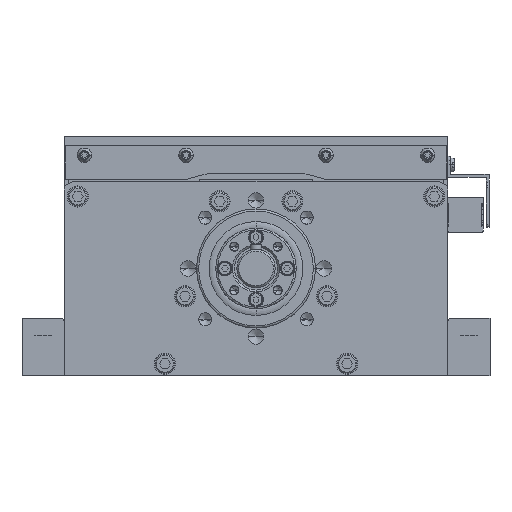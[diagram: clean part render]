
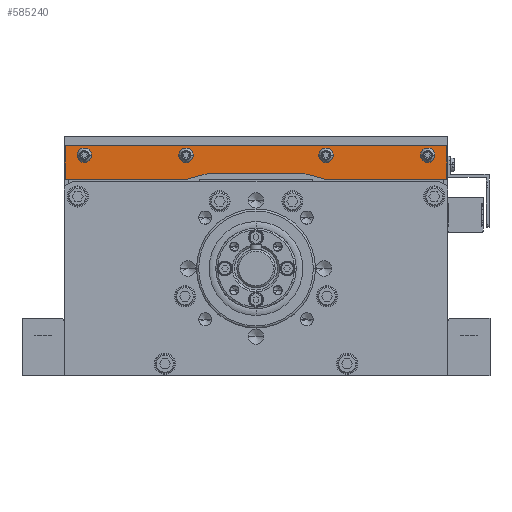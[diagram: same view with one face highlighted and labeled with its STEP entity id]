
A CAD part, front view. The second image highlights one B-rep face of the part: STEP entity #585240.
In plain terms, the highlighted planar face has unit normal (0, -1, 0).
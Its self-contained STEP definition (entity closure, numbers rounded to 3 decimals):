
#579800=CARTESIAN_POINT('',(121.25,-4.,1.5));
#579810=VERTEX_POINT('',#579800);
#579890=CARTESIAN_POINT('',(125.75,-4.,1.5));
#579900=VERTEX_POINT('',#579890);
#579930=CARTESIAN_POINT('',(123.5,-4.,1.5));
#579940=DIRECTION('',(0.,-1.,0.));
#579950=DIRECTION('',(1.,0.,0.));
#579960=AXIS2_PLACEMENT_3D('',#579930,#579940,#579950);
#579970=CIRCLE('',#579960,2.25);
#579980=EDGE_CURVE('',#579810,#579900,#579970,.T.);
#580120=CARTESIAN_POINT('',(-12.5,-4.,6.5));
#580130=VERTEX_POINT('',#580120);
#580160=CARTESIAN_POINT('',(-12.5,-4.,0.))
;
#580170=DIRECTION('',(0.,0.,-1.));
#580180=VECTOR('',#580170,1.);
#580190=LINE('',#580160,#580180);
#580200=CARTESIAN_POINT('',(-12.5,-4.,-11.));
#580210=VERTEX_POINT('',#580200);
#580220=EDGE_CURVE('',#580130,#580210,#580190,.T.);
#580770=CARTESIAN_POINT('',(0.,-4.,-24.616));
#580780=DIRECTION('',(-0.966,0.,
-0.259));
#580790=VECTOR('',#580780,1.);
#580800=LINE('',#580770,#580790);
#580810=CARTESIAN_POINT('',(62.013,-4.,-8.));
#580820=VERTEX_POINT('',#580810);
#580830=CARTESIAN_POINT('',(50.816,-4.,-11.));
#580840=VERTEX_POINT('',#580830);
#580850=EDGE_CURVE('',#580820,#580840,#580800,.T.);
#581170=CARTESIAN_POINT('',(0.,-4.,-8.));
#581180=DIRECTION('',(-1.,0.,0.));
#581190=VECTOR('',#581180,1.);
#581200=LINE('',#581170,#581190);
#581210=CARTESIAN_POINT('',(112.013,-4.,-8.));
#581220=VERTEX_POINT('',#581210);
#581230=EDGE_CURVE('',#581220,#580820,#581200,.T.);
#581770=CARTESIAN_POINT('',(0.,-4.,-11.));
#581780=DIRECTION('',(-1.,0.,0.));
#581790=VECTOR('',#581780,1.);
#581800=LINE('',#581770,#581790);
#581810=EDGE_CURVE('',#580840,#580210,#581800,.T.);
#582190=CARTESIAN_POINT('',(186.5,-4.,6.5));
#582200=VERTEX_POINT('',#582190);
#582230=CARTESIAN_POINT('',(0.,-4.,6.5));
#582240=DIRECTION('',(1.,0.,0.));
#582250=VECTOR('',#582240,1.);
#582260=LINE('',#582230,#582250);
#582270=EDGE_CURVE('',#580130,#582200,#582260,.T.);
#583480=CARTESIAN_POINT('',(186.5,-4.,0.
));
#583490=DIRECTION('',(0.,0.,1.));
#583500=VECTOR('',#583490,1.);
#583510=LINE('',#583480,#583500);
#583520=CARTESIAN_POINT('',(186.5,-4.,-11.));
#583530=VERTEX_POINT('',#583520);
#583540=EDGE_CURVE('',#583530,#582200,#583510,.T.);
#584140=CARTESIAN_POINT('',(174.25,-4.,1.5));
#584150=VERTEX_POINT('',#584140);
#584230=CARTESIAN_POINT('',(178.75,-4.,1.5));
#584240=VERTEX_POINT('',#584230);
#584270=CARTESIAN_POINT('',(176.5,-4.,1.5));
#584280=DIRECTION('',(0.,-1.,0.));
#584290=DIRECTION('',(1.,0.,0.));
#584300=AXIS2_PLACEMENT_3D('',#584270,#584280,#584290);
#584310=CIRCLE('',#584300,2.25);
#584320=EDGE_CURVE('',#584150,#584240,#584310,.T.);
#584610=CARTESIAN_POINT('',(70.,-4.,0.));
#584620=DIRECTION('',(0.,-1.,0.));
#584630=DIRECTION('',(1.,0.,0.));
#584640=AXIS2_PLACEMENT_3D('',#584610,#584620,#584630);
#584650=PLANE('',#584640);
#584660=CARTESIAN_POINT('',(-2.5,-4.,1.5));
#584670=DIRECTION('',(0.,-1.,0.));
#584680=DIRECTION('',(1.,0.,0.));
#584690=AXIS2_PLACEMENT_3D('',#584660,#584670,#584680);
#584700=CIRCLE('',#584690,2.25);
#584710=CARTESIAN_POINT('',(-0.25,-4.,1.5));
#584720=VERTEX_POINT('',#584710);
#584730=CARTESIAN_POINT('',(-4.75,-4.,1.5));
#584740=VERTEX_POINT('',#584730);
#584750=EDGE_CURVE('',#584720,#584740,#584700,.T.);
#584760=ORIENTED_EDGE('',*,*,#584750,.F.);
#584770=EDGE_CURVE('',#584740,#584720,#584700,.T.);
#584780=ORIENTED_EDGE('',*,*,#584770,.F.);
#584790=EDGE_LOOP('',(#584780,#584760));
#584800=FACE_BOUND('',#584790,.T.);
#584810=CARTESIAN_POINT('',(50.5,-4.,1.5));
#584820=DIRECTION('',(0.,-1.,0.));
#584830=DIRECTION('',(1.,0.,0.));
#584840=AXIS2_PLACEMENT_3D('',#584810,#584820,#584830);
#584850=CIRCLE('',#584840,2.25);
#584860=CARTESIAN_POINT('',(52.75,-4.,1.5));
#584870=VERTEX_POINT('',#584860);
#584880=CARTESIAN_POINT('',(48.25,-4.,1.5));
#584890=VERTEX_POINT('',#584880);
#584900=EDGE_CURVE('',#584870,#584890,#584850,.T.);
#584910=ORIENTED_EDGE('',*,*,#584900,.F.);
#584920=EDGE_CURVE('',#584890,#584870,#584850,.T.);
#584930=ORIENTED_EDGE('',*,*,#584920,.F.);
#584940=EDGE_LOOP('',(#584930,#584910));
#584950=FACE_BOUND('',#584940,.T.);
#584960=EDGE_CURVE('',#584240,#584150,#584310,.T.);
#584970=ORIENTED_EDGE('',*,*,#584960,.F.);
#584980=ORIENTED_EDGE('',*,*,#584320,.F.);
#584990=EDGE_LOOP('',(#584980,#584970));
#585000=FACE_BOUND('',#584990,.T.);
#585010=EDGE_CURVE('',#579900,#579810,#579970,.T.);
#585020=ORIENTED_EDGE('',*,*,#585010,.F.);
#585030=ORIENTED_EDGE('',*,*,#579980,.F.);
#585040=EDGE_LOOP('',(#585030,#585020));
#585050=FACE_BOUND('',#585040,.T.);
#585060=ORIENTED_EDGE('',*,*,#580220,.T.);
#585070=ORIENTED_EDGE('',*,*,#582270,.F.);
#585080=ORIENTED_EDGE('',*,*,#583540,.T.);
#585090=CARTESIAN_POINT('',(123.209,-4.,-11.));
#585100=VERTEX_POINT('',#585090);
#585110=EDGE_CURVE('',#583530,#585100,#581800,.T.);
#585120=ORIENTED_EDGE('',*,*,#585110,.F.);
#585130=CARTESIAN_POINT('',(0.,-4.,22.014));
#585140=DIRECTION('',(-0.966,0.,
0.259));
#585150=VECTOR('',#585140,1.);
#585160=LINE('',#585130,#585150);
#585170=EDGE_CURVE('',#585100,#581220,#585160,.T.);
#585180=ORIENTED_EDGE('',*,*,#585170,.F.);
#585190=ORIENTED_EDGE('',*,*,#581230,.F.);
#585200=ORIENTED_EDGE('',*,*,#580850,.F.);
#585210=ORIENTED_EDGE('',*,*,#581810,.F.);
#585220=EDGE_LOOP('',(#585210,#585200,#585190,#585180,#585120,#585080,
#585070,#585060));
#585230=FACE_OUTER_BOUND('',#585220,.T.);
#585240=ADVANCED_FACE('',(#584800,#584950,#585000,#585050,#585230),
#584650,.T.);
